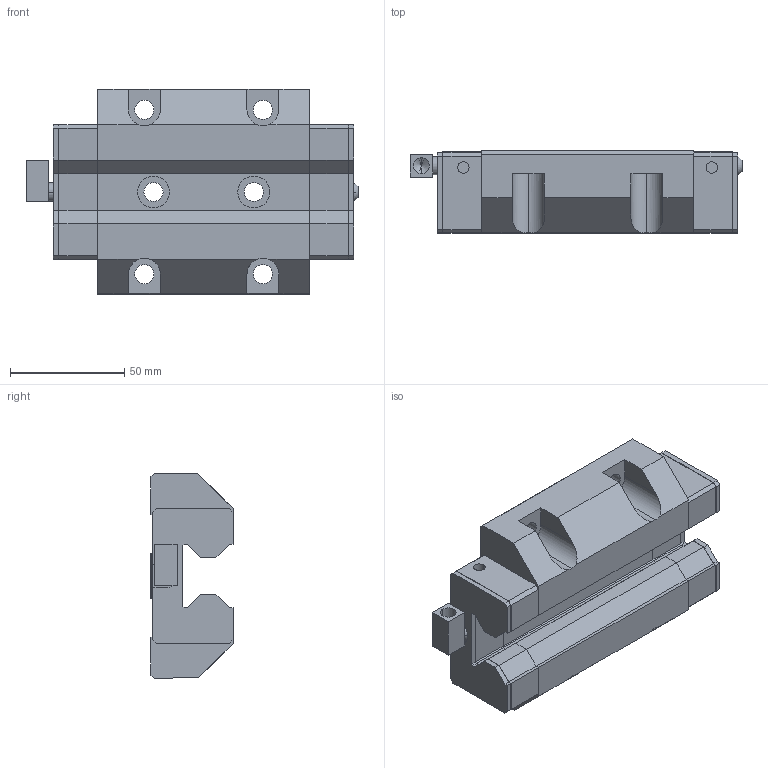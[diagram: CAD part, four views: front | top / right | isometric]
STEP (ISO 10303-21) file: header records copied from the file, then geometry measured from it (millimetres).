
FILE_DESCRIPTION (( 'STEP AP203' ), '1' );
FILE_NAME ('SGW30HC.STEP', '2025-07-11T05:19:16', ( 'Owner' ), ( 'Organization' ), 'SwSTEP 2.0', 'SolidWorks 2020', '' );
FILE_SCHEMA (( 'CONFIG_CONTROL_DESIGN' ));
Length unit declared in the file: millimetre
Products named in the file (1): SGW30HC
Bounding box: 145.6 x 36 x 90 mm (x, y, z)
Volume: 277292 mm3; surface area: 59773.8 mm2
Topology: 7 solids, 7 shells, 301 faces, 762 edges, 488 vertices
Faces by surface type: plane 239, cylinder 58, cone 2, torus 2
Entity records: 8984 total; most frequent: CARTESIAN_POINT 1574, ORIENTED_EDGE 1520, DIRECTION 1477, EDGE_CURVE 760, VECTOR 631, LINE 631, VERTEX_POINT 488, AXIS2_PLACEMENT_3D 423
